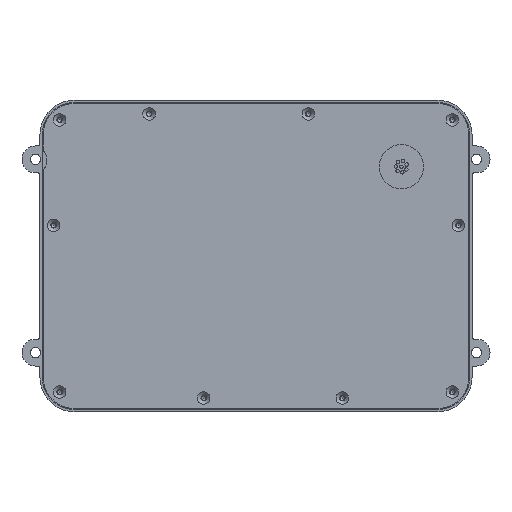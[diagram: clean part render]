
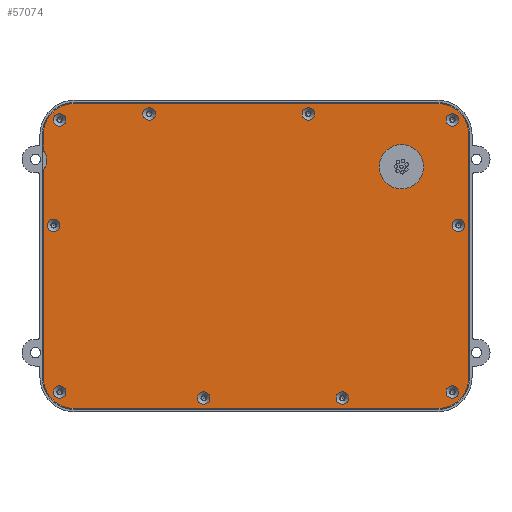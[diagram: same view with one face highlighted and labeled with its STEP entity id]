
A CAD part, top view. The second image highlights one B-rep face of the part: STEP entity #57074.
In plain terms, the highlighted planar face has unit normal (0, 0, 1).
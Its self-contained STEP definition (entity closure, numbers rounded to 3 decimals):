
#3389=FACE_BOUND('',#13756,.T.);
#3390=FACE_BOUND('',#13757,.T.);
#3391=FACE_BOUND('',#13758,.T.);
#3392=FACE_BOUND('',#13759,.T.);
#3393=FACE_BOUND('',#13760,.T.);
#3394=FACE_BOUND('',#13761,.T.);
#3395=FACE_BOUND('',#13762,.T.);
#3396=FACE_BOUND('',#13763,.T.);
#3397=FACE_BOUND('',#13764,.T.);
#3398=FACE_BOUND('',#13765,.T.);
#3399=FACE_BOUND('',#13766,.T.);
#5392=CIRCLE('',#62101,3.);
#5393=CIRCLE('',#62104,3.);
#5394=CIRCLE('',#62106,9.75);
#5426=CIRCLE('',#62150,2.75);
#5428=CIRCLE('',#62154,2.75);
#5430=CIRCLE('',#62158,2.75);
#5432=CIRCLE('',#62162,2.75);
#5434=CIRCLE('',#62166,2.75);
#5436=CIRCLE('',#62170,2.75);
#5438=CIRCLE('',#62174,2.75);
#5440=CIRCLE('',#62178,2.75);
#5442=CIRCLE('',#62182,2.75);
#5444=CIRCLE('',#62186,2.75);
#5446=CIRCLE('',#62191,13.549);
#5447=CIRCLE('',#62194,13.549);
#5448=CIRCLE('',#62197,13.549);
#5449=CIRCLE('',#62199,13.549);
#10074=FACE_OUTER_BOUND('',#13755,.T.);
#13755=EDGE_LOOP('',(#45717,#45718,#45719,#45720,#45721,#45722,#45723,#45724,
#45725,#45726,#45727,#45728));
#13756=EDGE_LOOP('',(#45729));
#13757=EDGE_LOOP('',(#45730));
#13758=EDGE_LOOP('',(#45731));
#13759=EDGE_LOOP('',(#45732));
#13760=EDGE_LOOP('',(#45733));
#13761=EDGE_LOOP('',(#45734));
#13762=EDGE_LOOP('',(#45735));
#13763=EDGE_LOOP('',(#45736));
#13764=EDGE_LOOP('',(#45737));
#13765=EDGE_LOOP('',(#45738));
#13766=EDGE_LOOP('',(#45739));
#17131=LINE('',#109108,#20851);
#17136=LINE('',#109119,#20856);
#17149=LINE('',#109184,#20869);
#17174=LINE('',#109303,#20894);
#17177=LINE('',#109311,#20897);
#17180=LINE('',#109319,#20900);
#20851=VECTOR('',#73289,10.);
#20856=VECTOR('',#73300,10.);
#20869=VECTOR('',#73375,10.);
#20894=VECTOR('',#73512,10.);
#20897=VECTOR('',#73521,10.);
#20900=VECTOR('',#73530,10.);
#25757=VERTEX_POINT('',#109105);
#25758=VERTEX_POINT('',#109107);
#25760=VERTEX_POINT('',#109113);
#25761=VERTEX_POINT('',#109117);
#25762=VERTEX_POINT('',#109121);
#25763=VERTEX_POINT('',#109125);
#25782=VERTEX_POINT('',#109182);
#25799=VERTEX_POINT('',#109220);
#25801=VERTEX_POINT('',#109228);
#25803=VERTEX_POINT('',#109236);
#25805=VERTEX_POINT('',#109244);
#25807=VERTEX_POINT('',#109252);
#25809=VERTEX_POINT('',#109260);
#25811=VERTEX_POINT('',#109268);
#25813=VERTEX_POINT('',#109276);
#25815=VERTEX_POINT('',#109284);
#25817=VERTEX_POINT('',#109292);
#25819=VERTEX_POINT('',#109300);
#25820=VERTEX_POINT('',#109302);
#25821=VERTEX_POINT('',#109306);
#25822=VERTEX_POINT('',#109310);
#25823=VERTEX_POINT('',#109314);
#25824=VERTEX_POINT('',#109318);
#32760=EDGE_CURVE('',#25758,#25757,#17131,.T.);
#32764=EDGE_CURVE('',#25757,#25760,#5392,.T.);
#32766=EDGE_CURVE('',#25760,#25761,#17136,.T.);
#32768=EDGE_CURVE('',#25761,#25762,#5393,.T.);
#32769=EDGE_CURVE('',#25763,#25763,#5394,.T.);
#32798=EDGE_CURVE('',#25762,#25782,#17149,.T.);
#32816=EDGE_CURVE('',#25799,#25799,#5426,.T.);
#32820=EDGE_CURVE('',#25801,#25801,#5428,.T.);
#32824=EDGE_CURVE('',#25803,#25803,#5430,.T.);
#32828=EDGE_CURVE('',#25805,#25805,#5432,.T.);
#32832=EDGE_CURVE('',#25807,#25807,#5434,.T.);
#32836=EDGE_CURVE('',#25809,#25809,#5436,.T.);
#32840=EDGE_CURVE('',#25811,#25811,#5438,.T.);
#32844=EDGE_CURVE('',#25813,#25813,#5440,.T.);
#32848=EDGE_CURVE('',#25815,#25815,#5442,.T.);
#32852=EDGE_CURVE('',#25817,#25817,#5444,.T.);
#32857=EDGE_CURVE('',#25820,#25819,#17174,.T.);
#32859=EDGE_CURVE('',#25821,#25820,#5446,.T.);
#32861=EDGE_CURVE('',#25822,#25821,#17177,.T.);
#32863=EDGE_CURVE('',#25823,#25822,#5447,.T.);
#32865=EDGE_CURVE('',#25824,#25823,#17180,.T.);
#32867=EDGE_CURVE('',#25782,#25824,#5448,.T.);
#32868=EDGE_CURVE('',#25819,#25758,#5449,.T.);
#45717=ORIENTED_EDGE('',*,*,#32768,.T.);
#45718=ORIENTED_EDGE('',*,*,#32798,.T.);
#45719=ORIENTED_EDGE('',*,*,#32867,.T.);
#45720=ORIENTED_EDGE('',*,*,#32865,.T.);
#45721=ORIENTED_EDGE('',*,*,#32863,.T.);
#45722=ORIENTED_EDGE('',*,*,#32861,.T.);
#45723=ORIENTED_EDGE('',*,*,#32859,.T.);
#45724=ORIENTED_EDGE('',*,*,#32857,.T.);
#45725=ORIENTED_EDGE('',*,*,#32868,.T.);
#45726=ORIENTED_EDGE('',*,*,#32760,.T.);
#45727=ORIENTED_EDGE('',*,*,#32764,.T.);
#45728=ORIENTED_EDGE('',*,*,#32766,.T.);
#45729=ORIENTED_EDGE('',*,*,#32769,.T.);
#45730=ORIENTED_EDGE('',*,*,#32816,.T.);
#45731=ORIENTED_EDGE('',*,*,#32820,.T.);
#45732=ORIENTED_EDGE('',*,*,#32824,.T.);
#45733=ORIENTED_EDGE('',*,*,#32828,.T.);
#45734=ORIENTED_EDGE('',*,*,#32832,.T.);
#45735=ORIENTED_EDGE('',*,*,#32836,.T.);
#45736=ORIENTED_EDGE('',*,*,#32840,.T.);
#45737=ORIENTED_EDGE('',*,*,#32844,.T.);
#45738=ORIENTED_EDGE('',*,*,#32848,.T.);
#45739=ORIENTED_EDGE('',*,*,#32852,.T.);
#54445=PLANE('',#62200);
#57074=ADVANCED_FACE('',(#10074,#3389,#3390,#3391,#3392,#3393,#3394,#3395,
#3396,#3397,#3398,#3399),#54445,.T.);
#62101=AXIS2_PLACEMENT_3D('',#109115,#73295,#73296);
#62104=AXIS2_PLACEMENT_3D('',#109123,#73304,#73305);
#62106=AXIS2_PLACEMENT_3D('',#109126,#73308,#73309);
#62150=AXIS2_PLACEMENT_3D('',#109221,#73411,#73412);
#62154=AXIS2_PLACEMENT_3D('',#109229,#73421,#73422);
#62158=AXIS2_PLACEMENT_3D('',#109237,#73431,#73432);
#62162=AXIS2_PLACEMENT_3D('',#109245,#73441,#73442);
#62166=AXIS2_PLACEMENT_3D('',#109253,#73451,#73452);
#62170=AXIS2_PLACEMENT_3D('',#109261,#73461,#73462);
#62174=AXIS2_PLACEMENT_3D('',#109269,#73471,#73472);
#62178=AXIS2_PLACEMENT_3D('',#109277,#73481,#73482);
#62182=AXIS2_PLACEMENT_3D('',#109285,#73491,#73492);
#62186=AXIS2_PLACEMENT_3D('',#109293,#73501,#73502);
#62191=AXIS2_PLACEMENT_3D('',#109307,#73516,#73517);
#62194=AXIS2_PLACEMENT_3D('',#109315,#73525,#73526);
#62197=AXIS2_PLACEMENT_3D('',#109322,#73534,#73535);
#62199=AXIS2_PLACEMENT_3D('',#109324,#73538,#73539);
#62200=AXIS2_PLACEMENT_3D('',#109325,#73540,#73541);
#73289=DIRECTION('',(0.,-1.,0.));
#73295=DIRECTION('center_axis',(0.,0.,-1.));
#73296=DIRECTION('ref_axis',(1.,0.,0.));
#73300=DIRECTION('',(0.,-1.,0.));
#73304=DIRECTION('center_axis',(0.,0.,-1.));
#73305=DIRECTION('ref_axis',(0.567,-0.824,0.));
#73308=DIRECTION('center_axis',(0.,0.,-1.));
#73309=DIRECTION('ref_axis',(1.,0.,0.));
#73375=DIRECTION('',(0.,-1.,0.));
#73411=DIRECTION('center_axis',(0.,0.,-1.));
#73412=DIRECTION('ref_axis',(1.,0.,0.));
#73421=DIRECTION('center_axis',(0.,0.,-1.));
#73422=DIRECTION('ref_axis',(1.,0.,0.));
#73431=DIRECTION('center_axis',(0.,0.,-1.));
#73432=DIRECTION('ref_axis',(1.,0.,0.));
#73441=DIRECTION('center_axis',(0.,0.,-1.));
#73442=DIRECTION('ref_axis',(1.,0.,0.));
#73451=DIRECTION('center_axis',(0.,0.,-1.));
#73452=DIRECTION('ref_axis',(1.,0.,0.));
#73461=DIRECTION('center_axis',(0.,0.,-1.));
#73462=DIRECTION('ref_axis',(1.,0.,0.));
#73471=DIRECTION('center_axis',(0.,0.,-1.));
#73472=DIRECTION('ref_axis',(1.,0.,0.));
#73481=DIRECTION('center_axis',(0.,0.,-1.));
#73482=DIRECTION('ref_axis',(1.,0.,0.));
#73491=DIRECTION('center_axis',(0.,0.,-1.));
#73492=DIRECTION('ref_axis',(1.,0.,0.));
#73501=DIRECTION('center_axis',(0.,0.,-1.));
#73502=DIRECTION('ref_axis',(1.,0.,0.));
#73512=DIRECTION('',(-1.,0.,0.));
#73516=DIRECTION('center_axis',(0.,0.,1.));
#73517=DIRECTION('ref_axis',(1.,0.,0.));
#73521=DIRECTION('',(0.,1.,0.));
#73525=DIRECTION('center_axis',(0.,0.,1.));
#73526=DIRECTION('ref_axis',(0.,-1.,0.));
#73530=DIRECTION('',(1.,0.,0.));
#73534=DIRECTION('center_axis',(0.,0.,1.));
#73535=DIRECTION('ref_axis',(-1.,0.,0.));
#73538=DIRECTION('center_axis',(0.,0.,1.));
#73539=DIRECTION('ref_axis',(0.,1.,0.));
#73540=DIRECTION('center_axis',(0.,0.,1.));
#73541=DIRECTION('ref_axis',(1.,0.,0.));
#109105=CARTESIAN_POINT('',(-4.549,108.549,8.7));
#109107=CARTESIAN_POINT('',(-4.549,116.,8.7));
#109108=CARTESIAN_POINT('',(-4.549,9.,8.7));
#109113=CARTESIAN_POINT('',(-3.249,106.077,8.7));
#109115=CARTESIAN_POINT('Origin',(-6.249,106.077,8.7));
#109117=CARTESIAN_POINT('',(-3.249,103.021,8.7));
#109119=CARTESIAN_POINT('',(-3.249,84.289,8.7));
#109121=CARTESIAN_POINT('',(-4.549,100.549,8.7));
#109123=CARTESIAN_POINT('Origin',(-6.249,103.021,8.7));
#109125=CARTESIAN_POINT('',(143.201,101.749,8.7));
#109126=CARTESIAN_POINT('Origin',(152.951,101.749,8.7));
#109182=CARTESIAN_POINT('',(-4.549,9.,8.7));
#109184=CARTESIAN_POINT('',(-4.549,9.,8.7));
#109220=CARTESIAN_POINT('',(-0.116,2.634,8.7));
#109221=CARTESIAN_POINT('Origin',(2.634,2.634,8.7));
#109228=CARTESIAN_POINT('',(124.25,-0.003,8.7));
#109229=CARTESIAN_POINT('Origin',(127.,-0.003,8.7));
#109236=CARTESIAN_POINT('',(175.253,76.,8.7));
#109237=CARTESIAN_POINT('Origin',(178.003,76.,8.7));
#109244=CARTESIAN_POINT('',(109.25,125.003,8.7));
#109245=CARTESIAN_POINT('Origin',(112.,125.003,8.7));
#109252=CARTESIAN_POINT('',(-0.116,122.366,8.7));
#109253=CARTESIAN_POINT('Origin',(2.634,122.366,8.7));
#109260=CARTESIAN_POINT('',(39.25,125.003,8.7));
#109261=CARTESIAN_POINT('Origin',(42.,125.003,8.7));
#109268=CARTESIAN_POINT('',(172.616,122.366,8.7));
#109269=CARTESIAN_POINT('Origin',(175.366,122.366,8.7));
#109276=CARTESIAN_POINT('',(172.616,2.634,8.7));
#109277=CARTESIAN_POINT('Origin',(175.366,2.634,8.7));
#109284=CARTESIAN_POINT('',(63.25,-0.003,8.7));
#109285=CARTESIAN_POINT('Origin',(66.,-0.003,8.7));
#109292=CARTESIAN_POINT('',(-2.753,76.,8.7));
#109293=CARTESIAN_POINT('Origin',(-0.003,76.,8.7));
#109300=CARTESIAN_POINT('',(9.,129.549,8.7));
#109302=CARTESIAN_POINT('',(169.,129.549,8.7));
#109303=CARTESIAN_POINT('',(9.,129.549,8.7));
#109306=CARTESIAN_POINT('',(182.549,116.,8.7));
#109307=CARTESIAN_POINT('Origin',(169.,116.,8.7));
#109310=CARTESIAN_POINT('',(182.549,9.,8.7));
#109311=CARTESIAN_POINT('',(182.549,116.,8.7));
#109314=CARTESIAN_POINT('',(169.,-4.549,8.7));
#109315=CARTESIAN_POINT('Origin',(169.,9.,8.7));
#109318=CARTESIAN_POINT('',(9.,-4.549,8.7));
#109319=CARTESIAN_POINT('',(169.,-4.549,8.7));
#109322=CARTESIAN_POINT('Origin',(9.,9.,8.7));
#109324=CARTESIAN_POINT('Origin',(9.,116.,8.7));
#109325=CARTESIAN_POINT('Origin',(89.,62.5,8.7));
